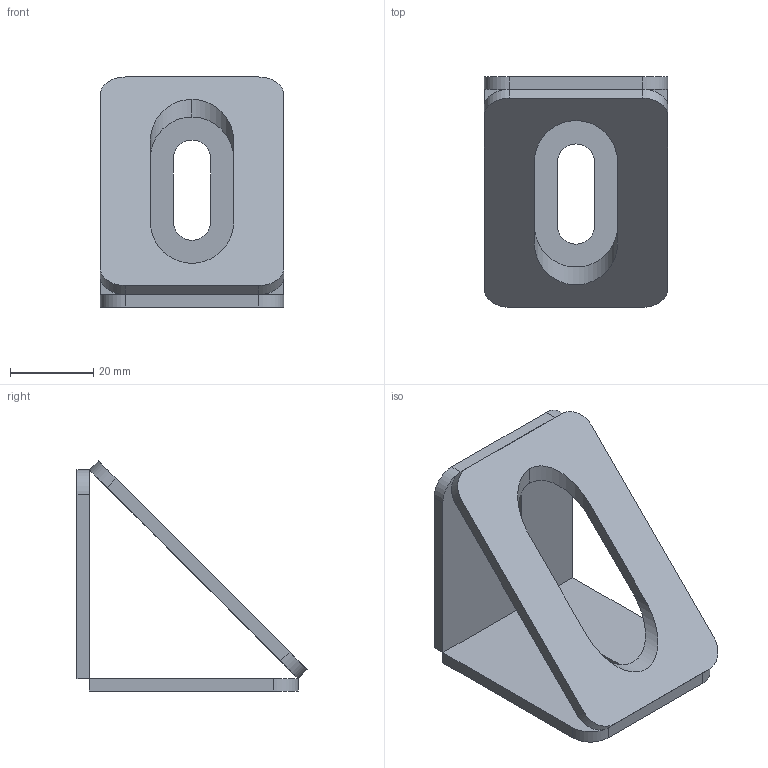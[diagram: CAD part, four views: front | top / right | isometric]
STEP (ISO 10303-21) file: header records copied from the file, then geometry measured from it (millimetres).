
FILE_DESCRIPTION (( 'STEP AP214' ), '1' );
FILE_NAME ('Ñáîðêà 8501.STEP', '2017-10-16T08:21:37', ( '' ), ( '' ), 'SwSTEP 2.0', 'SolidWorks 2014', '' );
FILE_SCHEMA (( 'AUTOMOTIVE_DESIGN' ));
Length unit declared in the file: millimetre
Products named in the file (6): 8501 - 1; 8501 - 2; 栖闉罻 8501
Assembly tree (3 placements, depth 2):
  8501 - 1
  8501 - 1
  8501 - 2
  栖闉罻 8501
    8501 - 1  x2
    8501 - 2
Bounding box: 44 x 55.12 x 55.12 mm (x, y, z)
Volume: 18370.9 mm3; surface area: 14763.2 mm2
Topology: 3 solids, 3 shells, 39 faces, 99 edges, 66 vertices
Faces by surface type: plane 24, cylinder 15
Entity records: 982 total; most frequent: CARTESIAN_POINT 167, DIRECTION 147, ORIENTED_EDGE 138, EDGE_CURVE 69, AXIS2_PLACEMENT_3D 50, LINE 47, VECTOR 47, VERTEX_POINT 46
